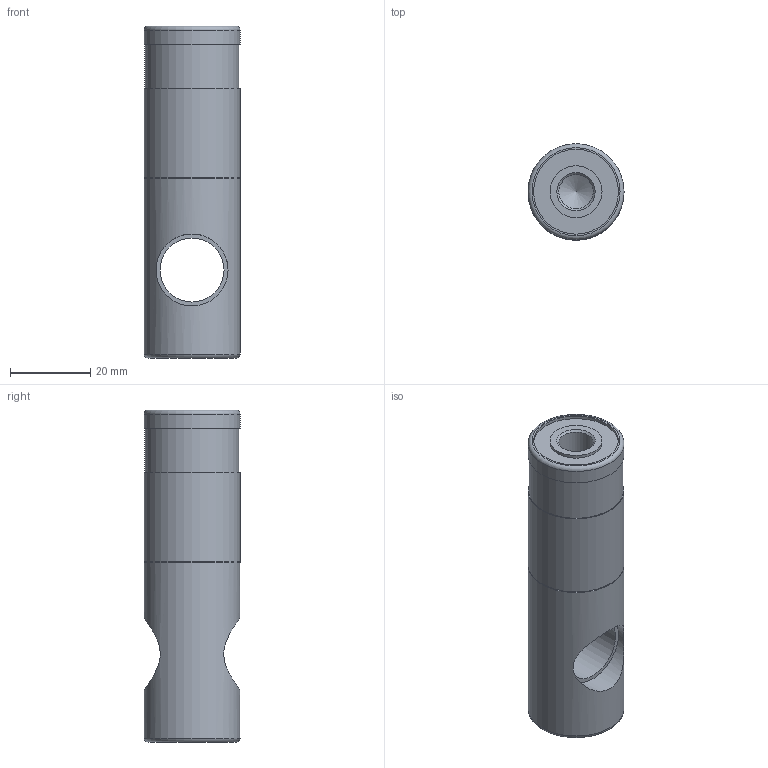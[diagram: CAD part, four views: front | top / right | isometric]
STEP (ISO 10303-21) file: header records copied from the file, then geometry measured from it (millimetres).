
FILE_DESCRIPTION(('STEP AP242'),'1');
FILE_NAME('A.6016 Feststellpatrone.stp','2026-04-23T09:35:03',(' '),(' '),'Spatial InterOp 3D',' ',' ');
FILE_SCHEMA(('AP242_MANAGED_MODEL_BASED_3D_ENGINEERING_MIM_LF {1 0 10303 442 1 1 4}'));
Length unit declared in the file: millimetre
Products named in the file (1): A.6016 Feststellpatrone
Bounding box: 24 x 24 x 83 mm (x, y, z)
Volume: 31417.3 mm3; surface area: 8136.8 mm2
Topology: 1 solids, 1 shells, 25 faces, 45 edges, 28 vertices
Faces by surface type: cylinder 11, plane 8, cone 4, torus 2
Full cylindrical faces by diameter (mm): 8.566 x2, 13 x1, 16 x1, 18 x2, 21.2 x1, 23.5 x1, 24 x3
Entity records: 999 total; most frequent: CARTESIAN_POINT 279, DIRECTION 98, EDGE_LOOP 50, ORIENTED_EDGE 50, AXIS2_PLACEMENT_3D 49, FACE_OUTER_BOUND 38, STYLED_ITEM 26, PRESENTATION_STYLE_ASSIGNMENT 26
